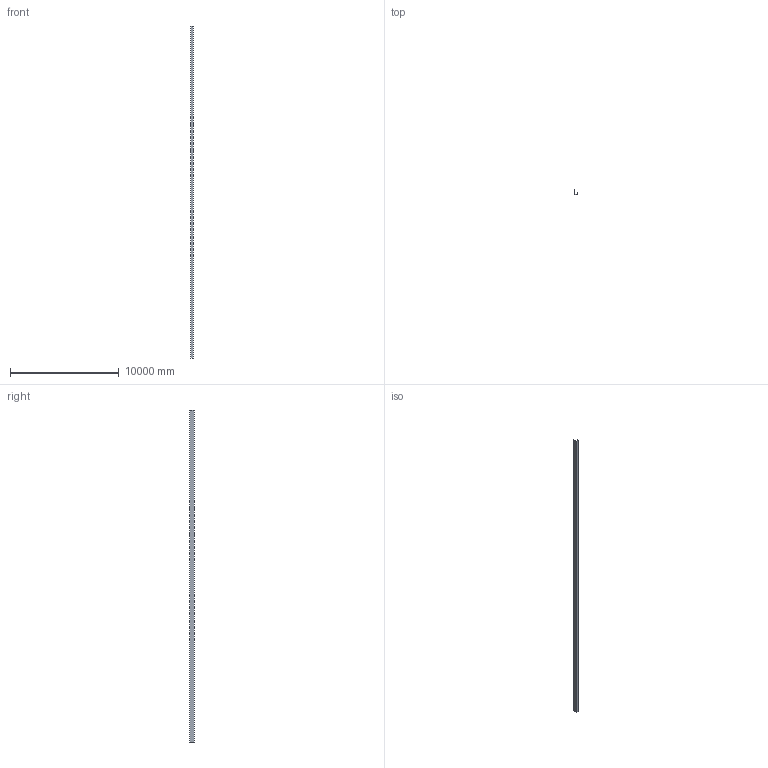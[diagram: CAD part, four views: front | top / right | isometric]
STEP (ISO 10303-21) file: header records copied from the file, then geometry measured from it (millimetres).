
FILE_DESCRIPTION(/* description */ (''),/* implementation_level */ '2;1');
FILE_NAME(/* name */ 'C:\Users\Utilisateur\Mac Metal\Site de communication - Documents\Ingénierie\1. Dessins techniques produits Mac\CAD_REVIT Molding drawing-MAC\MS 750\M01E\M01E.stp',/* time_stamp */ '2023-02-08T11:40:17-05:00',/* author */ ('Utilisateur'),/* organization */ (''),/* preprocessor_version */ 'ST-DEVELOPER v18.1',/* originating_system */ 'Autodesk Inventor 2022',/* authorisation */ '');
FILE_SCHEMA (('AUTOMOTIVE_DESIGN { 1 0 10303 214 3 1 1 }'));
Length unit declared in the file: centimetre
Products named in the file (1): M01E
Bounding box: 249.99 x 444.5 x 30480 mm (x, y, z)
Volume: 159138288.9 mm3; surface area: 62972988.6 mm2
Topology: 1 solids, 1 shells, 18 faces, 48 edges, 32 vertices
Faces by surface type: plane 12, cylinder 6
Entity records: 605 total; most frequent: CARTESIAN_POINT 99, DIRECTION 98, ORIENTED_EDGE 96, EDGE_CURVE 48, LINE 36, VECTOR 36, VERTEX_POINT 32, AXIS2_PLACEMENT_3D 31
